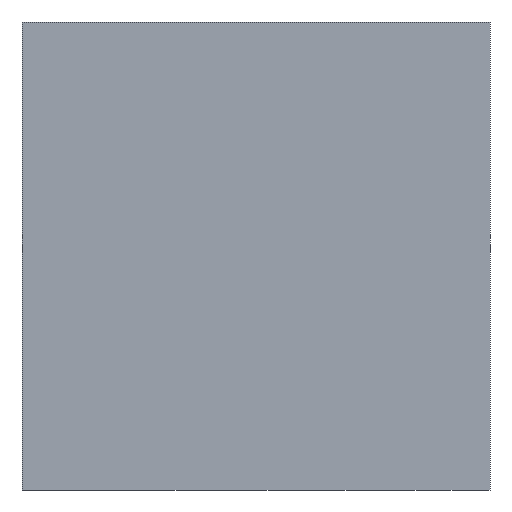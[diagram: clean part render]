
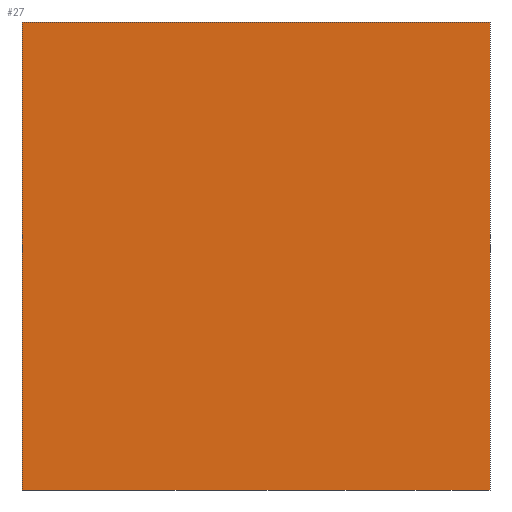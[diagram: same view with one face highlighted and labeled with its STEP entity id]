
A CAD part, left-side view. The second image highlights one B-rep face of the part: STEP entity #27.
In plain terms, the highlighted planar face has unit normal (-1, 0, 0).
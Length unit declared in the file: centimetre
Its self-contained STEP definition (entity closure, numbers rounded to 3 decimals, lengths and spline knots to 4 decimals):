
#22 = EDGE_CURVE ( 'NONE', #138, #236, #215, .T. ) ;
#24 = AXIS2_PLACEMENT_3D ( 'NONE', #241, #290, #217 ) ;
#27 = ADVANCED_FACE ( 'NONE', ( #165 ), #184, .F. ) ;
#31 = ORIENTED_EDGE ( 'NONE', *, *, #40, .T. ) ;
#33 = CARTESIAN_POINT ( 'NONE',  ( 0., 0., 1000. ) ) ;
#34 = VERTEX_POINT ( 'NONE', #91 ) ;
#40 = EDGE_CURVE ( 'NONE', #236, #34, #167, .T. ) ;
#42 = CARTESIAN_POINT ( 'NONE',  ( 0., 1000., 0. ) ) ;
#91 = CARTESIAN_POINT ( 'NONE',  ( 0., 0., 0. ) ) ;
#105 = VECTOR ( 'NONE', #296, 100. ) ;
#119 = VECTOR ( 'NONE', #253, 100. ) ;
#124 = DIRECTION ( 'NONE',  ( 0., -1., 0. ) ) ;
#126 = EDGE_CURVE ( 'NONE', #329, #34, #191, .T. ) ;
#137 = DIRECTION ( 'NONE',  ( 0., -1., 0. ) ) ;
#138 = VERTEX_POINT ( 'NONE', #143 ) ;
#141 = CARTESIAN_POINT ( 'NONE',  ( 0., 1000., 0. ) ) ;
#143 = CARTESIAN_POINT ( 'NONE',  ( 0., 1000., 1000. ) ) ;
#144 = EDGE_LOOP ( 'NONE', ( #31, #157, #270, #325 ) ) ;
#145 = LINE ( 'NONE', #249, #235 ) ;
#148 = CARTESIAN_POINT ( 'NONE',  ( 0., 0., 1000. ) ) ;
#157 = ORIENTED_EDGE ( 'NONE', *, *, #126, .F. ) ;
#165 = FACE_OUTER_BOUND ( 'NONE', #144, .T. ) ;
#167 = LINE ( 'NONE', #141, #258 ) ;
#184 = PLANE ( 'NONE',  #24 ) ;
#191 = LINE ( 'NONE', #148, #119 ) ;
#211 = CARTESIAN_POINT ( 'NONE',  ( 0., 1000., 1000. ) ) ;
#215 = LINE ( 'NONE', #211, #105 ) ;
#217 = DIRECTION ( 'NONE',  ( 0., 0., -1. ) ) ;
#231 = EDGE_CURVE ( 'NONE', #138, #329, #145, .T. ) ;
#235 = VECTOR ( 'NONE', #124, 100. ) ;
#236 = VERTEX_POINT ( 'NONE', #42 ) ;
#241 = CARTESIAN_POINT ( 'NONE',  ( 0., 1000., 1000. ) ) ;
#249 = CARTESIAN_POINT ( 'NONE',  ( 0., 1000., 1000. ) ) ;
#253 = DIRECTION ( 'NONE',  ( 0., 0., -1. ) ) ;
#258 = VECTOR ( 'NONE', #137, 100. ) ;
#270 = ORIENTED_EDGE ( 'NONE', *, *, #231, .F. ) ;
#290 = DIRECTION ( 'NONE',  ( 1., 0., 0. ) ) ;
#296 = DIRECTION ( 'NONE',  ( 0., 0., -1. ) ) ;
#325 = ORIENTED_EDGE ( 'NONE', *, *, #22, .T. ) ;
#329 = VERTEX_POINT ( 'NONE', #33 ) ;
